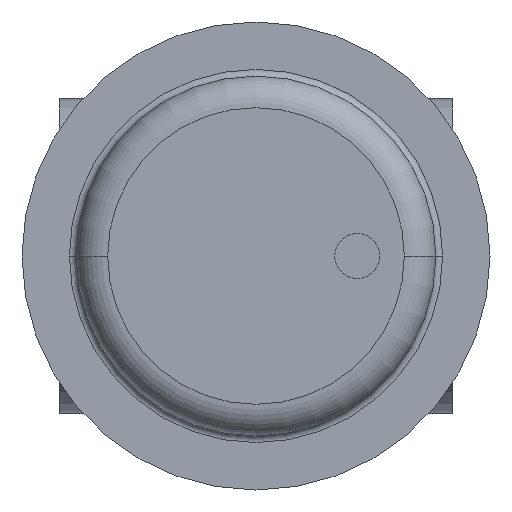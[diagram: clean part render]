
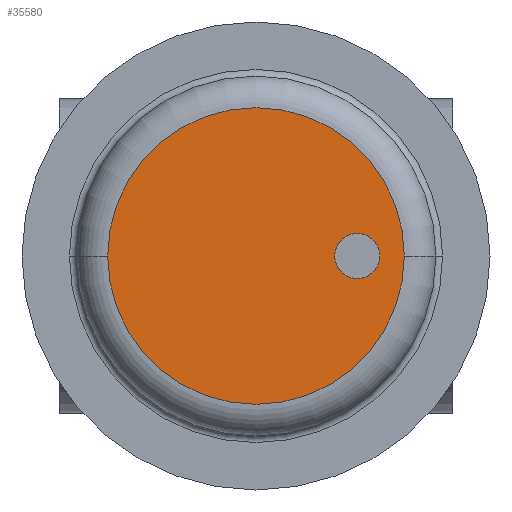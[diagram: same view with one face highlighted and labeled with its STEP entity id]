
A CAD part, front view. The second image highlights one B-rep face of the part: STEP entity #35580.
In plain terms, the highlighted planar face has unit normal (0, -1, 0).
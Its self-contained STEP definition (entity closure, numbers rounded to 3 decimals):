
#35080=CARTESIAN_POINT('',(24.07,-437.,0.));
#35090=VERTEX_POINT('',#35080);
#35190=CARTESIAN_POINT('',(155.93,-437.,0.));
#35200=VERTEX_POINT('',#35190);
#35230=CARTESIAN_POINT('',(90.,-437.,0.));
#35240=DIRECTION('',(0.,1.,0.));
#35250=DIRECTION('',(1.,0.,0.));
#35260=AXIS2_PLACEMENT_3D('',#35230,#35240,#35250);
#35270=CIRCLE('',#35260,65.93);
#35280=EDGE_CURVE('',#35090,#35200,#35270,.T.);
#35330=CARTESIAN_POINT('',(122.965,-437.,0.));
#35340=DIRECTION('',(0.,-1.,0.));
#35350=DIRECTION('',(-1.,0.,0.));
#35360=AXIS2_PLACEMENT_3D('',#35330,#35340,#35350);
#35370=PLANE('',#35360);
#35380=CARTESIAN_POINT('',(135.,-437.,0.));
#35390=DIRECTION('',(0.,1.,0.));
#35400=DIRECTION('',(1.,0.,0.));
#35410=AXIS2_PLACEMENT_3D('',#35380,#35390,#35400);
#35420=CIRCLE('',#35410,10.);
#35430=CARTESIAN_POINT('',(145.,-437.,0.));
#35440=VERTEX_POINT('',#35430);
#35450=CARTESIAN_POINT('',(125.,-437.,0.));
#35460=VERTEX_POINT('',#35450);
#35470=EDGE_CURVE('',#35440,#35460,#35420,.T.);
#35480=ORIENTED_EDGE('',*,*,#35470,.T.);
#35490=EDGE_CURVE('',#35460,#35440,#35420,.T.);
#35500=ORIENTED_EDGE('',*,*,#35490,.T.);
#35510=EDGE_LOOP('',(#35500,#35480));
#35520=FACE_BOUND('',#35510,.T.);
#35530=EDGE_CURVE('',#35200,#35090,#35270,.T.);
#35540=ORIENTED_EDGE('',*,*,#35530,.F.);
#35550=ORIENTED_EDGE('',*,*,#35280,.F.);
#35560=EDGE_LOOP('',(#35550,#35540));
#35570=FACE_OUTER_BOUND('',#35560,.T.);
#35580=ADVANCED_FACE('',(#35520,#35570),#35370,.T.);
